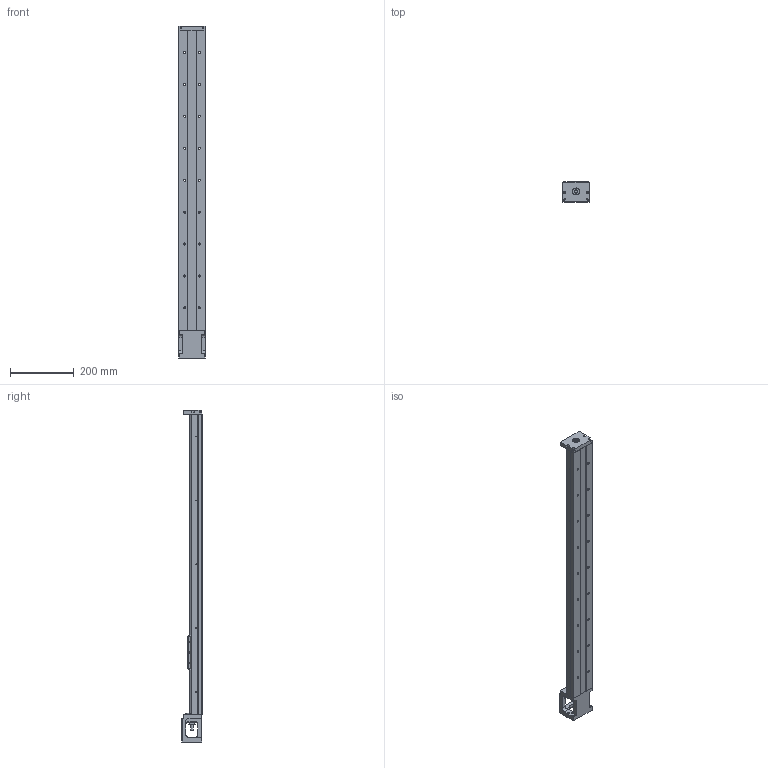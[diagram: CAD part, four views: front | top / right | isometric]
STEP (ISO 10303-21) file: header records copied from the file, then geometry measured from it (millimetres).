
FILE_DESCRIPTION(/* description */ (''),/* implementation_level */ '2;1');
FILE_NAME(/* name */ 'KP46N-940.stp',/* time_stamp */ '2020-06-05T10:00:11+08:00',/* author */ (''),/* organization */ (''),/* preprocessor_version */ 'ST-DEVELOPER v14',/* originating_system */ 'SIEMENS PLM Software NX 8.0',/* authorisation */ '');
FILE_SCHEMA (('AUTOMOTIVE_DESIGN { 1 0 10303 214 3 1 1 1 }'));
Length unit declared in the file: millimetre
Products named in the file (1): model1
Bounding box: 86 x 64 x 1040 mm (x, y, z)
Volume: 2028132.3 mm3; surface area: 412083.8 mm2
Topology: 9 solids, 21 shells, 680 faces, 1796 edges, 1178 vertices
Faces by surface type: plane 298, cylinder 249, cone 72, bspline 53, torus 8
Full cylindrical faces by diameter (mm): 2.11 x4, 2.15 x10, 2.42 x8, 3 x6, 3.2 x4, 3.3 x8, 3.4 x4, 4.2 x4, 4.5 x8, 5 x10, 6 x8, 6.35 x2, 6.6 x18, 8 x1, 9.6 x1, 10 x3, 11 x18, 12 x1, 14.95 x2, 15 x1, 16 x2, 22 x3, 27.5 x1, 44 x1, 50 x1
Entity records: 30967 total; most frequent: CARTESIAN_POINT 13034, ORIENTED_EDGE 3012, DIRECTION 2937, EDGE_CURVE 1506, AXIS2_PLACEMENT_3D 1106, VERTEX_POINT 1091, EDGE_LOOP 965, LINE 725
